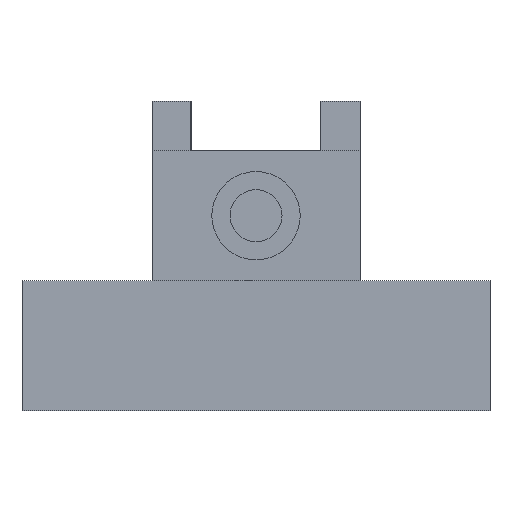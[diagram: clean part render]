
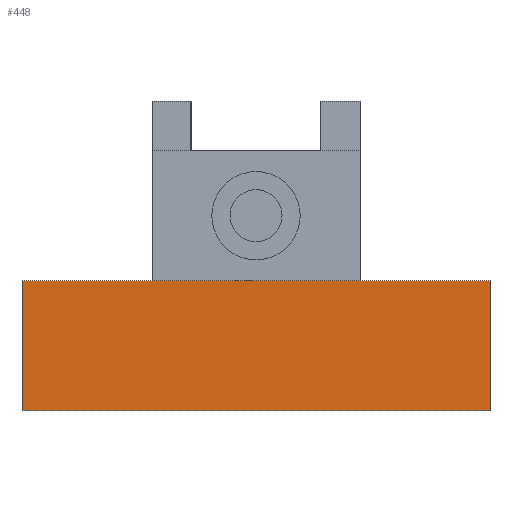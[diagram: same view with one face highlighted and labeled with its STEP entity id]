
A CAD part, left-side view. The second image highlights one B-rep face of the part: STEP entity #448.
In plain terms, the highlighted planar face has unit normal (-1, 0, 0).
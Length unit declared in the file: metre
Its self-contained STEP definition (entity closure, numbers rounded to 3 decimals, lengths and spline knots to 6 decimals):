
#68=ORIENTED_EDGE('',*,*,#155,.T.);
#69=ORIENTED_EDGE('',*,*,#160,.F.);
#70=ORIENTED_EDGE('',*,*,#177,.F.);
#71=ORIENTED_EDGE('',*,*,#175,.T.);
#155=EDGE_CURVE('',#216,#214,#254,.T.);
#160=EDGE_CURVE('',#219,#214,#259,.T.);
#175=EDGE_CURVE('',#227,#216,#274,.T.);
#177=EDGE_CURVE('',#227,#219,#276,.T.);
#214=VERTEX_POINT('',#662);
#216=VERTEX_POINT('',#665);
#219=VERTEX_POINT('',#673);
#227=VERTEX_POINT('',#701);
#254=LINE('',#664,#308);
#259=LINE('',#674,#313);
#274=LINE('',#700,#328);
#276=LINE('',#704,#330);
#308=VECTOR('',#534,1.);
#313=VECTOR('',#541,1.);
#328=VECTOR('',#564,1.);
#330=VECTOR('',#568,1.);
#358=EDGE_LOOP('',(#68,#69,#70,#71));
#392=FACE_BOUND('',#358,.T.);
#425=PLANE('',#488);
#448=ADVANCED_FACE('',(#392),#425,.T.);
#488=AXIS2_PLACEMENT_3D('',#703,#566,#567);
#534=DIRECTION('',(0.,1.,0.));
#541=DIRECTION('',(0.,0.,1.));
#564=DIRECTION('',(0.,0.,1.));
#566=DIRECTION('',(-1.,0.,0.));
#567=DIRECTION('',(0.,0.,-1.));
#568=DIRECTION('',(0.,1.,0.));
#662=CARTESIAN_POINT('',(0.0485,0.0375,-0.016));
#664=CARTESIAN_POINT('',(0.0485,0.0285,-0.016));
#665=CARTESIAN_POINT('',(0.0485,0.0195,-0.016));
#673=CARTESIAN_POINT('',(0.0485,0.0375,-0.021));
#674=CARTESIAN_POINT('',(0.0485,0.0375,-0.021));
#700=CARTESIAN_POINT('',(0.0485,0.0195,-0.021));
#701=CARTESIAN_POINT('',(0.0485,0.0195,-0.021));
#703=CARTESIAN_POINT('',(0.0485,0.0285,-0.021));
#704=CARTESIAN_POINT('',(0.0485,0.0285,-0.021));
